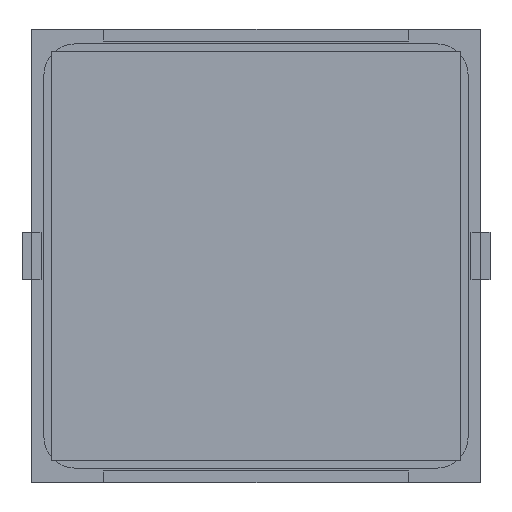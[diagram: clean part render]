
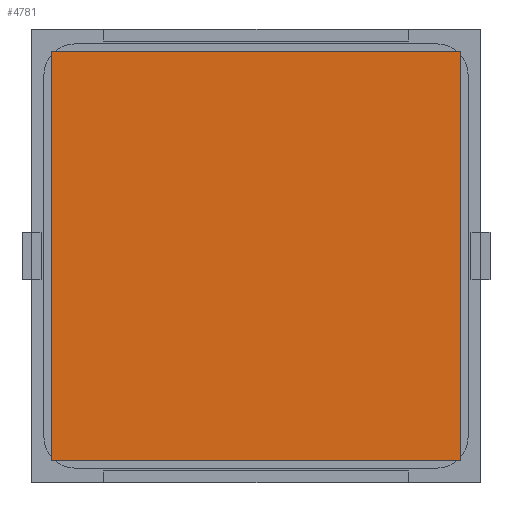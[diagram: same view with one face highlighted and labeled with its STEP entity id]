
A CAD part, front view. The second image highlights one B-rep face of the part: STEP entity #4781.
In plain terms, the highlighted planar face has unit normal (0, -1, 0).
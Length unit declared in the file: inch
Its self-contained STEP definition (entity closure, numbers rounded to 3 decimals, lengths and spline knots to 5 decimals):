
#168 = DIRECTION ( 'NONE',  ( 0., 0., 1. ) ) ;
#174 = DIRECTION ( 'NONE',  ( 0., 1., 0. ) ) ;
#178 = ORIENTED_EDGE ( 'NONE', *, *, #2516, .F. ) ;
#531 = CARTESIAN_POINT ( 'NONE',  ( -0.84646, -0.005, 0.84646 ) ) ;
#547 = EDGE_CURVE ( 'NONE', #9342, #1390, #6378, .T. ) ;
#870 = LINE ( 'NONE', #6817, #3499 ) ;
#1243 = CARTESIAN_POINT ( 'NONE',  ( -0.84646, -0.005, -0.84646 ) ) ;
#1390 = VERTEX_POINT ( 'NONE', #8758 ) ;
#1519 = VECTOR ( 'NONE', #168, 39.37008 ) ;
#2158 = DIRECTION ( 'NONE',  ( 0., 0., 1. ) ) ;
#2516 = EDGE_CURVE ( 'NONE', #11145, #3100, #11675, .T. ) ;
#2659 = ORIENTED_EDGE ( 'NONE', *, *, #12589, .F. ) ;
#3100 = VERTEX_POINT ( 'NONE', #4434 ) ;
#3499 = VECTOR ( 'NONE', #12103, 39.37008 ) ;
#3516 = DIRECTION ( 'NONE',  ( 1., 0., 0. ) ) ;
#4434 = CARTESIAN_POINT ( 'NONE',  ( 0.84646, -0.005, -0.84646 ) ) ;
#4515 = ORIENTED_EDGE ( 'NONE', *, *, #11678, .F. ) ;
#4720 = CARTESIAN_POINT ( 'NONE',  ( 0.84646, -0.005, -0.84646 ) ) ;
#4781 = ADVANCED_FACE ( 'NONE', ( #6040 ), #13074, .F. ) ;
#6040 = FACE_OUTER_BOUND ( 'NONE', #9613, .T. ) ;
#6378 = LINE ( 'NONE', #12268, #1519 ) ;
#6817 = CARTESIAN_POINT ( 'NONE',  ( -0.84646, -0.005, -0.84646 ) ) ;
#7464 = AXIS2_PLACEMENT_3D ( 'NONE', #10217, #174, #2158 ) ;
#7547 = LINE ( 'NONE', #531, #9686 ) ;
#8523 = VECTOR ( 'NONE', #12435, 39.37008 ) ;
#8758 = CARTESIAN_POINT ( 'NONE',  ( -0.84646, -0.005, 0.84646 ) ) ;
#9095 = ORIENTED_EDGE ( 'NONE', *, *, #547, .F. ) ;
#9342 = VERTEX_POINT ( 'NONE', #1243 ) ;
#9613 = EDGE_LOOP ( 'NONE', ( #9095, #2659, #178, #4515 ) ) ;
#9686 = VECTOR ( 'NONE', #3516, 39.37008 ) ;
#10217 = CARTESIAN_POINT ( 'NONE',  ( -0.84646, -0.005, 0.84646 ) ) ;
#10776 = CARTESIAN_POINT ( 'NONE',  ( 0.84646, -0.005, 0.84646 ) ) ;
#11145 = VERTEX_POINT ( 'NONE', #10776 ) ;
#11675 = LINE ( 'NONE', #4720, #8523 ) ;
#11678 = EDGE_CURVE ( 'NONE', #1390, #11145, #7547, .T. ) ;
#12103 = DIRECTION ( 'NONE',  ( -1., 0., 0. ) ) ;
#12268 = CARTESIAN_POINT ( 'NONE',  ( -0.84646, -0.005, -0.84646 ) ) ;
#12435 = DIRECTION ( 'NONE',  ( 0., 0., -1. ) ) ;
#12589 = EDGE_CURVE ( 'NONE', #3100, #9342, #870, .T. ) ;
#13074 = PLANE ( 'NONE',  #7464 ) ;
